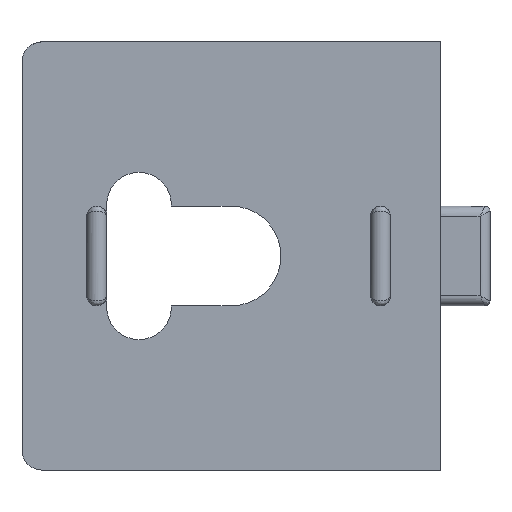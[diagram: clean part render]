
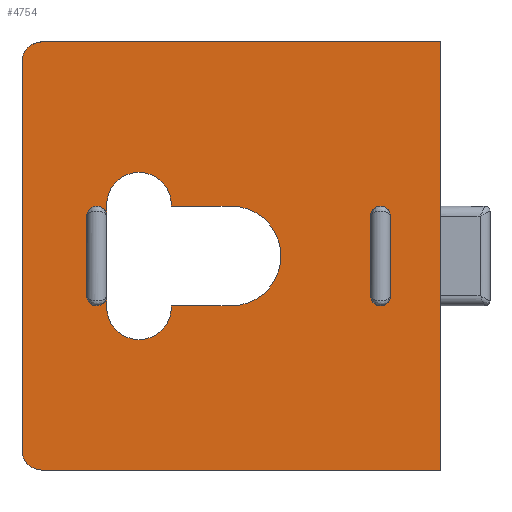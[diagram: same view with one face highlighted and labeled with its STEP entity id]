
A CAD part, left-side view. The second image highlights one B-rep face of the part: STEP entity #4754.
In plain terms, the highlighted planar face has unit normal (-1, 0, 0).
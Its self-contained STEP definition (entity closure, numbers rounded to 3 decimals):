
#2836=CARTESIAN_POINT('',(0.0,5.0,-17.5));
#2837=VERTEX_POINT('',#2836);
#2844=CARTESIAN_POINT('',(0.0,7.,-17.5));
#2845=VERTEX_POINT('',#2844);
#2846=CARTESIAN_POINT('',(0.0,6.,-17.5));
#2847=DIRECTION('',(1.0,0.0,0.0));
#2848=DIRECTION('',(0.0,-0.707,0.707));
#2849=AXIS2_PLACEMENT_3D('',#2846,#2847,#2848);
#2850=CIRCLE('',#2849,1.0);
#2851=EDGE_CURVE('',#2837,#2845,#2850,.F.);
#3070=CARTESIAN_POINT('',(0.0,7.,-25.5));
#3071=VERTEX_POINT('',#3070);
#3078=CARTESIAN_POINT('',(0.0,5.0,-25.5));
#3079=VERTEX_POINT('',#3078);
#3080=CARTESIAN_POINT('',(0.0,6.,-25.5));
#3081=DIRECTION('',(1.,0.0,0.0));
#3082=DIRECTION('',(0.0,0.707,-0.707));
#3083=AXIS2_PLACEMENT_3D('',#3080,#3081,#3082);
#3084=CIRCLE('',#3083,1.);
#3085=EDGE_CURVE('',#3071,#3079,#3084,.F.);
#3268=CARTESIAN_POINT('',(0.0,35.5,-25.5));
#3269=VERTEX_POINT('',#3268);
#3276=CARTESIAN_POINT('',(0.0,33.5,-25.5));
#3277=VERTEX_POINT('',#3276);
#3278=CARTESIAN_POINT('',(0.0,34.5,-25.5));
#3279=DIRECTION('',(1.0,0.0,0.0));
#3280=DIRECTION('',(0.0,0.707,-0.707));
#3281=AXIS2_PLACEMENT_3D('',#3278,#3279,#3280);
#3282=CIRCLE('',#3281,1.);
#3283=EDGE_CURVE('',#3269,#3277,#3282,.F.);
#4356=CARTESIAN_POINT('',(0.0,33.5,-17.5));
#4357=VERTEX_POINT('',#4356);
#4364=CARTESIAN_POINT('',(0.0,35.5,-17.5));
#4365=VERTEX_POINT('',#4364);
#4366=CARTESIAN_POINT('',(0.0,34.5,-17.5));
#4367=DIRECTION('',(1.0,0.0,0.0));
#4368=DIRECTION('',(0.0,-0.707,0.707));
#4369=AXIS2_PLACEMENT_3D('',#4366,#4367,#4368);
#4370=CIRCLE('',#4369,1.);
#4371=EDGE_CURVE('',#4357,#4365,#4370,.F.);
#4510=CARTESIAN_POINT('',(0.0,33.5,-16.35));
#4511=VERTEX_POINT('',#4510);
#4512=CARTESIAN_POINT('',(0.0,33.5,-17.5));
#4513=DIRECTION('',(0.0,0.0,1.0));
#4514=VECTOR('',#4513,1.15);
#4515=LINE('',#4512,#4514);
#4516=EDGE_CURVE('',#4357,#4511,#4515,.T.);
#4521=CARTESIAN_POINT('',(0.0,33.5,-26.65));
#4522=VERTEX_POINT('',#4521);
#4523=CARTESIAN_POINT('',(0.0,33.5,-26.65));
#4524=DIRECTION('',(0.0,0.0,1.0));
#4525=VECTOR('',#4524,1.15);
#4526=LINE('',#4523,#4525);
#4527=EDGE_CURVE('',#4522,#3277,#4526,.T.);
#4567=CARTESIAN_POINT('',(0.0,7.,-25.5));
#4568=DIRECTION('',(0.0,0.0,1.0));
#4569=VECTOR('',#4568,8.);
#4570=LINE('',#4567,#4569);
#4571=EDGE_CURVE('',#3071,#2845,#4570,.T.);
#4599=CARTESIAN_POINT('',(0.0,5.0,-17.5));
#4600=DIRECTION('',(0.0,0.0,-1.0));
#4601=VECTOR('',#4600,8.0);
#4602=LINE('',#4599,#4601);
#4603=EDGE_CURVE('',#2837,#3079,#4602,.T.);
#4616=CARTESIAN_POINT('',(0.0,35.5,-25.5));
#4617=DIRECTION('',(0.0,0.0,1.0));
#4618=VECTOR('',#4617,8.);
#4619=LINE('',#4616,#4618);
#4620=EDGE_CURVE('',#3269,#4365,#4619,.T.);
#4627=CARTESIAN_POINT('',(0.0,42.0,0.0));
#4628=DIRECTION('',(-1.0,0.0,0.0));
#4629=DIRECTION('',(0.0,0.0,1.0));
#4630=AXIS2_PLACEMENT_3D('',#4627,#4628,#4629);
#4631=PLANE('',#4630);
#4632=CARTESIAN_POINT('',(0.0,40.0,-43.0));
#4633=VERTEX_POINT('',#4632);
#4634=CARTESIAN_POINT('',(0.0,42.0,-41.0));
#4635=VERTEX_POINT('',#4634);
#4636=CARTESIAN_POINT('',(0.0,40.0,-41.0));
#4637=DIRECTION('',(1.,0.0,0.0));
#4638=DIRECTION('',(0.0,0.707,-0.707));
#4639=AXIS2_PLACEMENT_3D('',#4636,#4637,#4638);
#4640=CIRCLE('',#4639,2.);
#4641=EDGE_CURVE('',#4633,#4635,#4640,.T.);
#4642=ORIENTED_EDGE('',*,*,#4641,.F.);
#4643=CARTESIAN_POINT('',(0.0,0.0,-43.0));
#4644=VERTEX_POINT('',#4643);
#4645=CARTESIAN_POINT('',(0.0,40.0,-43.0));
#4646=DIRECTION('',(0.0,-1.0,0.0));
#4647=VECTOR('',#4646,40.0);
#4648=LINE('',#4645,#4647);
#4649=EDGE_CURVE('',#4633,#4644,#4648,.T.);
#4650=ORIENTED_EDGE('',*,*,#4649,.T.);
#4651=CARTESIAN_POINT('',(0.0,0.0,0.0));
#4652=VERTEX_POINT('',#4651);
#4653=CARTESIAN_POINT('',(0.0,0.0,0.0));
#4654=DIRECTION('',(0.0,0.0,-1.0));
#4655=VECTOR('',#4654,43.0);
#4656=LINE('',#4653,#4655);
#4657=EDGE_CURVE('',#4652,#4644,#4656,.T.);
#4658=ORIENTED_EDGE('',*,*,#4657,.F.);
#4659=CARTESIAN_POINT('',(0.0,40.0,0.0));
#4660=VERTEX_POINT('',#4659);
#4661=CARTESIAN_POINT('',(0.0,40.0,0.0));
#4662=DIRECTION('',(0.0,-1.0,0.0));
#4663=VECTOR('',#4662,40.0);
#4664=LINE('',#4661,#4663);
#4665=EDGE_CURVE('',#4660,#4652,#4664,.T.);
#4666=ORIENTED_EDGE('',*,*,#4665,.F.);
#4667=CARTESIAN_POINT('',(0.0,42.0,-2.0));
#4668=VERTEX_POINT('',#4667);
#4669=CARTESIAN_POINT('',(0.0,40.0,-2.0));
#4670=DIRECTION('',(1.0,0.0,0.0));
#4671=DIRECTION('',(0.0,0.707,0.707));
#4672=AXIS2_PLACEMENT_3D('',#4669,#4670,#4671);
#4673=CIRCLE('',#4672,2.0);
#4674=EDGE_CURVE('',#4668,#4660,#4673,.T.);
#4675=ORIENTED_EDGE('',*,*,#4674,.F.);
#4676=CARTESIAN_POINT('',(0.0,42.0,-2.0));
#4677=DIRECTION('',(0.0,0.0,-1.0));
#4678=VECTOR('',#4677,39.0);
#4679=LINE('',#4676,#4678);
#4680=EDGE_CURVE('',#4668,#4635,#4679,.T.);
#4681=ORIENTED_EDGE('',*,*,#4680,.T.);
#4682=EDGE_LOOP('',(#4642,#4650,#4658,#4666,#4675,#4681));
#4683=FACE_OUTER_BOUND('',#4682,.T.);
#4684=ORIENTED_EDGE('',*,*,#4620,.T.);
#4685=ORIENTED_EDGE('',*,*,#4371,.F.);
#4686=ORIENTED_EDGE('',*,*,#4516,.T.);
#4687=CARTESIAN_POINT('',(0.0,27.0,-16.35));
#4688=VERTEX_POINT('',#4687);
#4689=CARTESIAN_POINT('',(0.0,30.25,-16.35));
#4690=DIRECTION('',(1.0,0.0,0.0));
#4691=DIRECTION('',(0.0,0.0,-1.0));
#4692=AXIS2_PLACEMENT_3D('',#4689,#4690,#4691);
#4693=CIRCLE('',#4692,3.25);
#4694=EDGE_CURVE('',#4511,#4688,#4693,.T.);
#4695=ORIENTED_EDGE('',*,*,#4694,.T.);
#4696=CARTESIAN_POINT('',(0.0,27.0,-16.5));
#4697=VERTEX_POINT('',#4696);
#4698=CARTESIAN_POINT('',(0.0,27.0,-16.35));
#4699=DIRECTION('',(0.0,0.0,-1.0));
#4700=VECTOR('',#4699,0.15);
#4701=LINE('',#4698,#4700);
#4702=EDGE_CURVE('',#4688,#4697,#4701,.T.);
#4703=ORIENTED_EDGE('',*,*,#4702,.T.);
#4704=CARTESIAN_POINT('',(0.0,21.0,-16.5));
#4705=VERTEX_POINT('',#4704);
#4706=CARTESIAN_POINT('',(0.0,27.0,-16.5));
#4707=DIRECTION('',(0.0,-1.0,0.0));
#4708=VECTOR('',#4707,6.0);
#4709=LINE('',#4706,#4708);
#4710=EDGE_CURVE('',#4697,#4705,#4709,.T.);
#4711=ORIENTED_EDGE('',*,*,#4710,.T.);
#4712=CARTESIAN_POINT('',(0.0,21.,-26.5));
#4713=VERTEX_POINT('',#4712);
#4714=CARTESIAN_POINT('',(0.0,21.0,-21.5));
#4715=DIRECTION('',(1.0,0.0,0.0));
#4716=DIRECTION('',(0.0,0.0,-1.0));
#4717=AXIS2_PLACEMENT_3D('',#4714,#4715,#4716);
#4718=CIRCLE('',#4717,5.0);
#4719=EDGE_CURVE('',#4705,#4713,#4718,.T.);
#4720=ORIENTED_EDGE('',*,*,#4719,.T.);
#4721=CARTESIAN_POINT('',(0.0,27.0,-26.5));
#4722=VERTEX_POINT('',#4721);
#4723=CARTESIAN_POINT('',(0.0,21.,-26.5));
#4724=DIRECTION('',(0.0,1.0,0.0));
#4725=VECTOR('',#4724,6.);
#4726=LINE('',#4723,#4725);
#4727=EDGE_CURVE('',#4713,#4722,#4726,.T.);
#4728=ORIENTED_EDGE('',*,*,#4727,.T.);
#4729=CARTESIAN_POINT('',(0.0,27.0,-26.65));
#4730=VERTEX_POINT('',#4729);
#4731=CARTESIAN_POINT('',(0.0,27.0,-26.5));
#4732=DIRECTION('',(0.0,0.0,-1.0));
#4733=VECTOR('',#4732,0.15);
#4734=LINE('',#4731,#4733);
#4735=EDGE_CURVE('',#4722,#4730,#4734,.T.);
#4736=ORIENTED_EDGE('',*,*,#4735,.T.);
#4737=CARTESIAN_POINT('',(0.0,30.25,-26.65));
#4738=DIRECTION('',(1.0,0.0,0.0));
#4739=DIRECTION('',(0.0,0.0,-1.0));
#4740=AXIS2_PLACEMENT_3D('',#4737,#4738,#4739);
#4741=CIRCLE('',#4740,3.25);
#4742=EDGE_CURVE('',#4730,#4522,#4741,.T.);
#4743=ORIENTED_EDGE('',*,*,#4742,.T.);
#4744=ORIENTED_EDGE('',*,*,#4527,.T.);
#4745=ORIENTED_EDGE('',*,*,#3283,.F.);
#4746=EDGE_LOOP('',(#4684,#4685,#4686,#4695,#4703,#4711,#4720,#4728,#4736,#4743,#4744,#4745));
#4747=FACE_BOUND('',#4746,.T.);
#4748=ORIENTED_EDGE('',*,*,#2851,.F.);
#4749=ORIENTED_EDGE('',*,*,#4603,.T.);
#4750=ORIENTED_EDGE('',*,*,#3085,.F.);
#4751=ORIENTED_EDGE('',*,*,#4571,.T.);
#4752=EDGE_LOOP('',(#4748,#4749,#4750,#4751));
#4753=FACE_BOUND('',#4752,.T.);
#4754=ADVANCED_FACE('',(#4683,#4747,#4753),#4631,.T.);
